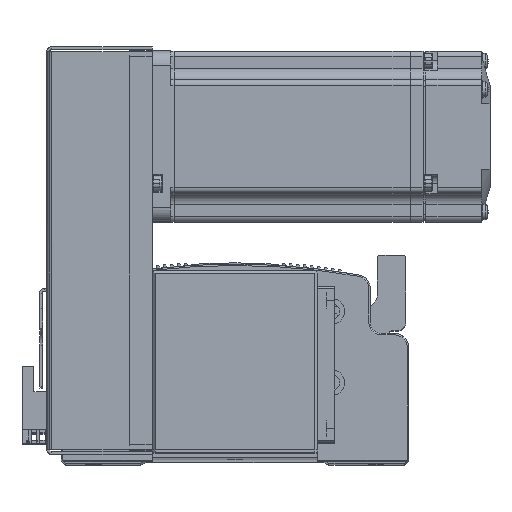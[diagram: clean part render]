
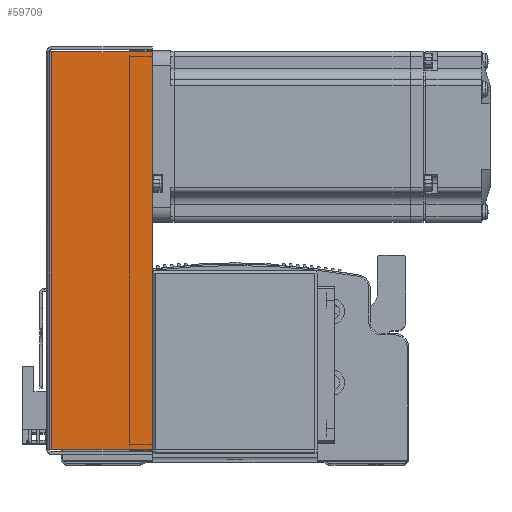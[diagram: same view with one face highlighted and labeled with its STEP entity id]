
A CAD part, top view. The second image highlights one B-rep face of the part: STEP entity #59709.
In plain terms, the highlighted planar face has unit normal (0, 0, 1) as drawn and (0, 0, -1) by its records, which use the part's own axes.
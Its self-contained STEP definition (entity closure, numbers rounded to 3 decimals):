
#8088 = CARTESIAN_POINT ( 'NONE',  ( 69.793, 36., -33.5 ) ) ;
#8092 = CARTESIAN_POINT ( 'NONE',  ( -69.793, 36., -33.5 ) ) ;
#8101 = CARTESIAN_POINT ( 'NONE',  ( 69.793, 0.737, -33.5 ) ) ;
#8153 = CARTESIAN_POINT ( 'NONE',  ( -69.793, 0.737, -33.5 ) ) ;
#8865 = EDGE_CURVE ( 'NONE', #50481, #50508, #53007, .T. ) ;
#8867 = EDGE_CURVE ( 'NONE', #50540, #50481, #52994, .T. ) ;
#8894 = EDGE_CURVE ( 'NONE', #50540, #50475, #53033, .T. ) ;
#8986 = EDGE_CURVE ( 'NONE', #50475, #50508, #53099, .T. ) ;
#19835 = CARTESIAN_POINT ( 'NONE',  ( 0., 36., -33.5 ) ) ;
#19847 = DIRECTION ( 'NONE',  ( 1., 0., 0. ) ) ;
#19869 = DIRECTION ( 'NONE',  ( 1., 0., 0. ) ) ;
#19871 = DIRECTION ( 'NONE',  ( 0., 1., 0. ) ) ;
#19874 = CARTESIAN_POINT ( 'NONE',  ( 71.5, 0.737, -33.5 ) ) ;
#19880 = CARTESIAN_POINT ( 'NONE',  ( -69.793, 0., -33.5 ) ) ;
#19986 = CARTESIAN_POINT ( 'NONE',  ( 69.793, 0., -33.5 ) ) ;
#20000 = DIRECTION ( 'NONE',  ( 0., 1., 0. ) ) ;
#28112 = AXIS2_PLACEMENT_3D ( 'NONE', #34243, #34166, #34262 ) ;
#34150 = PLANE ( 'NONE',  #28112 ) ;
#34166 = DIRECTION ( 'NONE',  ( 0., 0., 1. ) ) ;
#34243 = CARTESIAN_POINT ( 'NONE',  ( 0., 0., -33.5 ) ) ;
#34262 = DIRECTION ( 'NONE',  ( 0., -1., 0. ) ) ;
#34602 = EDGE_LOOP ( 'NONE', ( #40999, #40943, #40945, #40951 ) ) ;
#40943 = ORIENTED_EDGE ( 'NONE', *, *, #8867, .T. ) ;
#40945 = ORIENTED_EDGE ( 'NONE', *, *, #8865, .T. ) ;
#40951 = ORIENTED_EDGE ( 'NONE', *, *, #8986, .F. ) ;
#40999 = ORIENTED_EDGE ( 'NONE', *, *, #8894, .F. ) ;
#48905 = FACE_OUTER_BOUND ( 'NONE', #34602, .T. ) ;
#50475 = VERTEX_POINT ( 'NONE', #8101 ) ;
#50481 = VERTEX_POINT ( 'NONE', #8092 ) ;
#50508 = VERTEX_POINT ( 'NONE', #8088 ) ;
#50540 = VERTEX_POINT ( 'NONE', #8153 ) ;
#52994 = LINE ( 'NONE', #19880, #53015 ) ;
#52997 = VECTOR ( 'NONE', #19847, 1000. ) ;
#53007 = LINE ( 'NONE', #19835, #53037 ) ;
#53015 = VECTOR ( 'NONE', #19871, 1000. ) ;
#53033 = LINE ( 'NONE', #19874, #52997 ) ;
#53037 = VECTOR ( 'NONE', #19869, 1000. ) ;
#53090 = VECTOR ( 'NONE', #20000, 1000. ) ;
#53099 = LINE ( 'NONE', #19986, #53090 ) ;
#59709 = ADVANCED_FACE ( 'NONE', ( #48905 ), #34150, .F. ) ;
